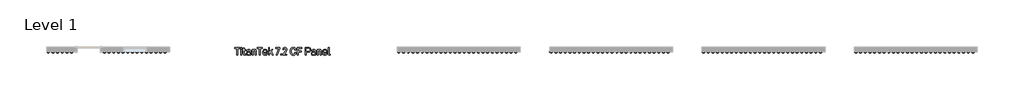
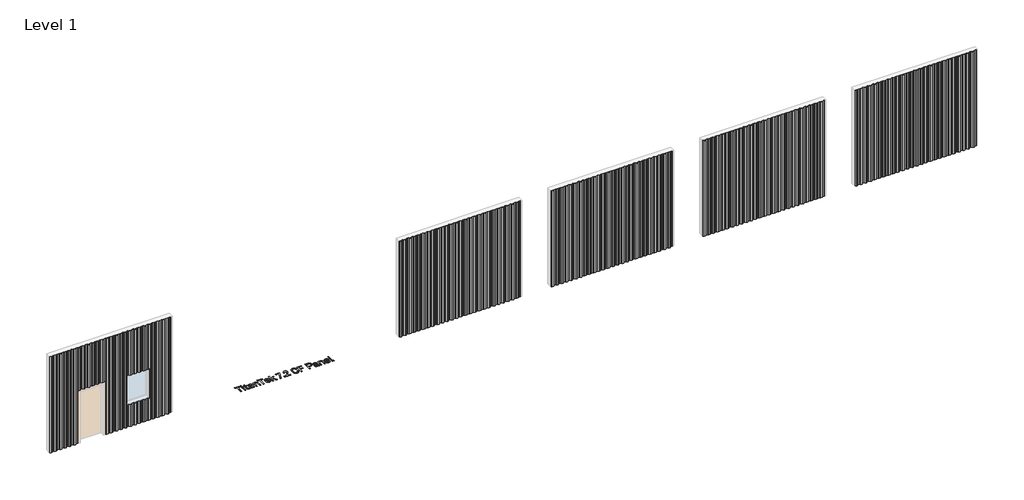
# One storey, part 9 of 9: 6 proxies.
"""IFC4 building model written with IfcOpenShell, lengths in millimetres."""

from ifc_helpers import new_model, si_unit, frame, origin, origin_with_axes, place, context, project, spatial, polyline, outline, extrude, faceted_brep, transform, mapped, element, save
from components import titantek_7_2_cf_panel_aluminum_slate_gray_eb07de06

model = new_model("IFC4")

# Units and contexts
model_context = context("Model", 3, world=origin())
ifc_project = project(units=[si_unit("LENGTHUNIT", "METRE", prefix="MILLI")], contexts=[model_context])

# Site, building, storey
site = spatial("IfcSite", under=ifc_project)
building = spatial("IfcBuilding", under=site)
storey = spatial("IfcBuildingStorey", under=building, Name="Level 1", Elevation=0.0)

# Proxies
placement = place(None, origin())
element("IfcBuildingElementProxy", 1, Name="600mm Arial 2", ObjectType="600mm Arial 2", at=placement, inside=storey, context=model_context, shape_type="SweptSolid", body=[
    extrude(outline(polyline([(-8638.9924556, 2220.4128343), (-8638.9924556, 1952.9873502), (-8678.4439015, 1952.9873502), (-8678.4439015, 2220.4128343), (-8762.8787304, 2220.4128343), (-8762.8787304, 2257.3166776), (-8554.5576267, 2257.3166776), (-8554.5576267, 2220.4128343), (-8638.9924556, 2220.4128343)])), origin_with_axes(), (0.0, 0.0, 1.0), 5.0),
    extrude(outline(polyline([(-8487.1553408, 2253.0221475), (-8487.1553408, 2205.8551051), (-8526.6067867, 2205.8551051), (-8526.6067867, 2253.0221475), (-8487.1553408, 2253.0221475)])), origin_with_axes(), (0.0, 0.0, 1.0), 5.0),
    extrude(outline(polyline([(-8488.0288046, 2178.8505176), (-8488.0288046, 1952.9873502), (-8525.733323, 1952.9873502), (-8525.733323, 2178.8505176), (-8488.0288046, 2178.8505176)])), origin_with_axes(), (0.0, 0.0, 1.0), 5.0),
    extrude(outline(polyline([(-8372.294858, 2012.601251), (-8370.8208879, 2001.5191797), (-8366.3989777, 1993.6034145), (-8359.0291273, 1988.8539554), (-8348.7113368, 1987.2708023), (-8327.2386864, 1987.2708023), (-8327.2386864, 1952.9873502), (-8353.3698101, 1952.9873502), (-8377.1535001, 1956.9543314), (-8395.3688587, 1968.855275), (-8406.6692959, 1987.3981825), (-8410.4361083, 2011.2910554), (-8410.4361083, 2147.1146681), (-8444.2828285, 2147.1146681), (-8444.2828285, 2178.8505176), (-8410.4361083, 2178.8505176), (-8410.4361083, 2226.8910237), (-8372.294858, 2244.8698192), (-8372.294858, 2178.8505176), (-8323.3808881, 2178.8505176), (-8323.3808881, 2147.1146681), (-8372.294858, 2147.1146681), (-8372.294858, 2012.601251)])), origin_with_axes(), (0.0, 0.0, 1.0), 5.0),
    extrude(outline(polyline([(-8146.8684225, 2162.1091291), (-8137.2830677, 2151.3409589), (-8130.4363858, 2138.2526505), (-8124.9590402, 2105.1156196), (-8124.9590402, 1952.9873502), (-8162.2996154, 1952.9873502), (-8162.2996154, 1969.2920069), (-8180.7151427, 1956.8451485), (-8197.7476858, 1952.0410978), (-8217.9829293, 1950.4397476), (-8250.0281305, 1954.7160806), (-8274.1029751, 1967.5450794), (-8289.2248162, 1989.3270816), (-8294.2654299, 2018.5699199), (-8289.1338304, 2046.2114081), (-8273.7390318, 2067.4111012), (-8249.063681, 2080.6222403), (-8217.1094655, 2085.0259534), (-8162.7363472, 2085.0259534), (-8162.7363472, 2105.5523515), (-8165.6296959, 2124.441005), (-8174.3097419, 2138.1616647), (-8188.2305704, 2146.1866129), (-8207.7197302, 2148.8615956), (-8226.2262434, 2146.6051476), (-8239.819523, 2139.8358036), (-8248.1720201, 2129.4816187), (-8250.9561857, 2115.4516073), (-8250.9561857, 2109.8468816), (-8287.8600291, 2109.8468816), (-8287.8600291, 2116.2522824), (-8282.4008807, 2143.2932642), (-8266.0234354, 2164.2927885), (-8240.8203668, 2177.4493362), (-8208.1564621, 2181.8348521), (-8172.6719974, 2176.9034213), (-8158.5600987, 2170.7391329), (-8146.8684225, 2162.1091291)]), holes=[polyline([(-8174.6736851, 1994.5496669), (-8165.7206817, 2009.4531421), (-8162.7363472, 2031.0167784), (-8162.7363472, 2054.9642428), (-8212.8149354, 2054.9642428), (-8231.9538, 2052.7168933), (-8245.6244175, 2045.974845), (-8253.826788, 2034.7380979), (-8256.5609115, 2019.0066518), (-8253.8540837, 2003.0522906), (-8245.7336004, 1991.6563182), (-8232.1994616, 1984.8187348), (-8213.2516673, 1982.5395404), (-8190.104878, 1985.542072), (-8174.6736851, 1994.5496669)])]), origin_with_axes(), (0.0, 0.0, 1.0), 5.0),
    extrude(outline(polyline([(-8030.6977441, 2178.8505176), (-8030.6977441, 2160.4349903), (-8012.2822167, 2173.6825238), (-7995.1222935, 2179.4692211), (-7976.2518372, 2181.3981202), (-7943.9154813, 2175.9389718), (-7930.7907787, 2169.1150363), (-7919.6950595, 2159.5615265), (-7911.0650557, 2147.9790333), (-7904.9007673, 2134.1946835), (-7899.9693365, 2100.0204144), (-7899.9693365, 1952.9873502), (-7937.673855, 1952.9873502), (-7937.673855, 2095.7258843), (-7940.6763866, 2118.1083928), (-7949.6839815, 2133.8671346), (-7964.3781893, 2143.4752358), (-7983.567096, 2146.6779363), (-8002.7378056, 2143.4752358), (-8017.3774219, 2133.8671346), (-8027.0401146, 2117.453295), (-8030.2610122, 2095.7258843), (-8030.2610122, 1952.9873502), (-8067.9655306, 1952.9873502), (-8067.9655306, 2178.8505176), (-8030.6977441, 2178.8505176)])), origin_with_axes(), (0.0, 0.0, 1.0), 5.0),
    extrude(outline(polyline([(-7749.2240514, 2220.4128343), (-7749.2240514, 1952.9873502), (-7788.6754974, 1952.9873502), (-7788.6754974, 2220.4128343), (-7873.1103263, 2220.4128343), (-7873.1103263, 2257.3166776), (-7664.7892225, 2257.3166776), (-7664.7892225, 2220.4128343), (-7749.2240514, 2220.4128343)])), origin_with_axes(), (0.0, 0.0, 1.0), 5.0),
    extrude(outline(polyline([(-7608.5235994, 2047.2486463), (-7605.1025331, 2017.8329349), (-7594.8393341, 1998.8805913), (-7578.3527058, 1988.5900965), (-7556.2613519, 1985.1599316), (-7536.990558, 1987.7257314), (-7522.8513635, 1995.4231306), (-7514.1713175, 2007.1966941), (-7511.2779689, 2022.86445), (-7511.2779689, 2028.3963871), (-7474.3741256, 2028.3963871), (-7474.3741256, 2021.9909863), (-7480.0516399, 1992.8391337), (-7487.1485329, 1980.528754), (-7497.084183, 1969.7287387), (-7523.7976159, 1955.2619954), (-7558.3722226, 1950.4397476), (-7577.3222916, 1951.9387388), (-7594.2843206, 1956.4357123), (-7609.2583098, 1963.9306682), (-7622.2442591, 1974.4236064), (-7632.7371973, 1988.0237099), (-7640.2321532, 2004.8401617), (-7644.7291267, 2024.8729617), (-7646.2281179, 2048.1221101), (-7646.2281179, 2085.8266285), (-7644.7314014, 2108.5321367), (-7640.2412518, 2128.1714231), (-7632.7576691, 2144.7444879), (-7622.2806535, 2158.2513309), (-7609.4971476, 2168.5691214), (-7594.7301511, 2175.9389718), (-7577.979664, 2180.360882), (-7559.2456864, 2181.8348521), (-7540.8438069, 2180.360882), (-7524.2161506, 2175.9389718), (-7509.3627176, 2168.5691214), (-7496.2835079, 2158.2513309), (-7485.9657174, 2144.9082623), (-7478.595867, 2128.389789), (-7474.1739568, 2108.6959111), (-7472.6999867, 2085.8266285), (-7472.6999867, 2055.8377065), (-7608.5235994, 2055.8377065), (-7608.5235994, 2047.2486463)]), holes=[polyline([(-7595.2760659, 2133.4304027), (-7605.2117161, 2115.30603), (-7608.5235994, 2086.7000923), (-7510.4045051, 2086.2633604), (-7510.4045051, 2089.6844267), (-7513.6254027, 2116.9255774), (-7523.2880954, 2134.3038665), (-7538.9012599, 2143.5844188), (-7559.2456864, 2146.6779363), (-7579.60831, 2143.3660529), (-7595.2760659, 2133.4304027)])]), origin_with_axes(), (0.0, 0.0, 1.0), 5.0),
    extrude(outline(polyline([(-7387.391694, 2020.3168474), (-7387.391694, 1952.9873502), (-7425.0962125, 1952.9873502), (-7425.0962125, 2257.3166776), (-7387.391694, 2257.3166776), (-7387.391694, 2070.8321675), (-7299.0990669, 2178.8505176), (-7252.3687564, 2178.8505176), (-7326.5403863, 2091.8680861), (-7241.6688255, 1952.9873502), (-7287.5256722, 1952.9873502), (-7351.7980463, 2062.6798392), (-7387.391694, 2020.3168474)])), origin_with_axes(), (0.0, 0.0, 1.0), 5.0),
    extrude(outline(polyline([(-6978.3195056, 2223.8339006), (-7076.001868, 1952.9873502), (-7116.3267777, 1952.9873502), (-7018.5716266, 2220.4128343), (-7137.2899076, 2220.4128343), (-7137.2899076, 2257.3166776), (-6978.3195056, 2257.3166776), (-6978.3195056, 2223.8339006)])), origin_with_axes(), (0.0, 0.0, 1.0), 5.0),
    extrude(outline(polyline([(-6899.1254592, 2001.0278564), (-6899.1254592, 1952.9873502), (-6945.4190378, 1952.9873502), (-6945.4190378, 2001.0278564), (-6899.1254592, 2001.0278564)])), origin_with_axes(), (0.0, 0.0, 1.0), 5.0),
    extrude(outline(polyline([(-6758.7161617, 2127.4617338), (-6745.1774737, 2153.2471115), (-6740.6645776, 2176.7396469), (-6740.6645776, 2183.1450477), (-6743.3577575, 2200.9418716), (-6751.4372972, 2214.0074335), (-6764.2844931, 2222.3599305), (-6780.5527554, 2225.1440962), (-6796.9302007, 2222.4691135), (-6809.2314818, 2214.4441653), (-6816.9834726, 2200.6143227), (-6819.5674695, 2181.3981202), (-6819.5674695, 2169.4607823), (-6858.9461268, 2169.4607823), (-6858.9461268, 2183.1450477), (-6853.5961613, 2214.7535171), (-6837.546265, 2240.1385572), (-6811.9428589, 2256.1884536), (-6779.6792917, 2261.5384191), (-6757.4969519, 2258.9726193), (-6738.116975, 2251.27522), (-6722.1580645, 2239.3924736), (-6710.2389238, 2223.3971687), (-6702.8690734, 2204.9998386), (-6700.4124566, 2184.0185115), (-6700.4124566, 2176.7396469), (-6702.1229898, 2158.0875565), (-6707.2545893, 2140.7092673), (-6726.9803122, 2105.9890833), (-6807.9940748, 1989.4544617), (-6700.4124566, 1989.4544617), (-6700.4124566, 1952.9873502), (-6858.9461268, 1952.9873502), (-6858.9461268, 1983.849736), (-6758.7161617, 2127.4617338)])), origin_with_axes(), (0.0, 0.0, 1.0), 5.0),
    extrude(outline(polyline([(-6532.925783, 1977.881067), (-6545.8548662, 1994.3676953), (-6555.0899256, 2014.7121217), (-6560.6309612, 2038.9143464), (-6562.4779731, 2066.9743693), (-6562.4779731, 2143.6936018), (-6560.6309612, 2171.9219484), (-6555.0899256, 2196.1924124), (-6545.8548662, 2216.5049939), (-6532.925783, 2232.8596927), (-6516.9168303, 2245.2474103), (-6498.4421621, 2254.09578), (-6477.5017786, 2259.4048019), (-6454.0956798, 2261.1744758), (-6424.7254613, 2258.2811272), (-6399.213041, 2249.6010812), (-6378.1043338, 2235.4436896), (-6361.9452544, 2216.1183042), (-6352.2825617, 2192.7713461), (-6349.0616641, 2166.4036592), (-6349.0616641, 2160.8717222), (-6388.949842, 2160.8717222), (-6388.949842, 2166.4036592), (-6393.2261749, 2190.2965321), (-6406.0551737, 2208.8394396), (-6426.8727263, 2220.4128343), (-6454.0956798, 2224.2706325), (-6483.5477855, 2219.5575677), (-6505.0841261, 2205.4183733), (-6512.7747014, 2194.4136399), (-6518.2679695, 2180.251699), (-6522.662584, 2142.4561948), (-6522.662584, 2065.3002304), (-6518.3498567, 2030.9712854), (-6505.411675, 2006.4506105), (-6495.7080386, 1997.8683742), (-6483.8480387, 1991.7382055), (-6453.6589479, 1986.8340705), (-6426.3268115, 1990.6918687), (-6406.0551737, 2002.2652633), (-6393.2261749, 2020.4806219), (-6388.949842, 2044.2643119), (-6388.949842, 2050.3057694), (-6349.9351279, 2050.3057694), (-6349.9351279, 2044.2643119), (-6351.7002526, 2023.4103649), (-6356.9956265, 2004.9584432), (-6365.8212498, 1988.9085469), (-6378.1771224, 1975.2606758), (-6393.5400759, 1964.0193793), (-6411.3141533, 1955.9898819), (-6431.4993546, 1951.1721834), (-6454.0956798, 1949.5662839), (-6477.5017786, 1951.3359578), (-6498.4421621, 1956.6449797), (-6516.9168303, 1965.4933494), (-6532.925783, 1977.881067)])), origin_with_axes(), (0.0, 0.0, 1.0), 5.0),
    extrude(outline(polyline([(-6255.7466205, 2125.2780744), (-6128.8760111, 2125.2780744), (-6128.8760111, 2088.4470198), (-6255.7466205, 2088.4470198), (-6255.7466205, 1952.9873502), (-6295.6347983, 1952.9873502), (-6295.6347983, 2257.3166776), (-6107.4761493, 2257.3166776), (-6107.4761493, 2220.4128343), (-6255.7466205, 2220.4128343), (-6255.7466205, 2125.2780744)])), origin_with_axes(), (0.0, 0.0, 1.0), 5.0),
    extrude(outline(polyline([(-5787.7884177, 2233.2964245), (-5776.3560511, 2219.8396237), (-5768.1900749, 2203.926206), (-5763.2904892, 2185.5561716), (-5761.6572939, 2164.7295204), (-5763.3177849, 2145.044741), (-5768.2992578, 2127.5527196), (-5776.6017127, 2112.2534562), (-5788.2251496, 2099.1469507), (-5802.2824568, 2088.6380899), (-5818.7599864, 2081.1317609), (-5837.6577386, 2076.6279634), (-5858.9757131, 2075.1266976), (-5929.653488, 2075.1266976), (-5929.653488, 1952.9873502), (-5969.5416658, 1952.9873502), (-5969.5416658, 2257.3166776), (-5858.9757131, 2257.3166776), (-5837.7942173, 2255.8154118), (-5818.8691694, 2251.3116143), (-5802.2005696, 2243.8052853), (-5787.7884177, 2233.2964245)]), holes=[polyline([(-5816.5399327, 2125.2780744), (-5805.294087, 2141.5827311), (-5801.5454717, 2164.7295204), (-5805.40327, 2189.3502798), (-5816.9766646, 2206.7285689), (-5836.0472898, 2216.9917679), (-5861.5233157, 2220.4128343), (-5929.653488, 2220.4128343), (-5929.653488, 2112.0305409), (-5861.5233157, 2112.0305409), (-5835.283009, 2115.3424243), (-5816.5399327, 2125.2780744)])]), origin_with_axes(), (0.0, 0.0, 1.0), 5.0),
    extrude(outline(polyline([(-5589.3665697, 2162.1091291), (-5579.781215, 2151.3409589), (-5572.934533, 2138.2526505), (-5567.4571874, 2105.1156196), (-5567.4571874, 1952.9873502), (-5604.7977626, 1952.9873502), (-5604.7977626, 1969.2920069), (-5623.21329, 1956.8451485), (-5640.245833, 1952.0410978), (-5660.4810765, 1950.4397476), (-5692.5262778, 1954.7160806), (-5716.6011223, 1967.5450794), (-5731.7229634, 1989.3270816), (-5736.7635771, 2018.5699199), (-5731.6319776, 2046.2114081), (-5716.2371791, 2067.4111012), (-5691.5618282, 2080.6222403), (-5659.6076128, 2085.0259534), (-5605.2344945, 2085.0259534), (-5605.2344945, 2105.5523515), (-5608.1278431, 2124.441005), (-5616.8078891, 2138.1616647), (-5630.7287176, 2146.1866129), (-5650.2178775, 2148.8615956), (-5668.7243906, 2146.6051476), (-5682.3176702, 2139.8358036), (-5690.6701673, 2129.4816187), (-5693.454333, 2115.4516073), (-5693.454333, 2109.8468816), (-5730.3581763, 2109.8468816), (-5730.3581763, 2116.2522824), (-5724.8990279, 2143.2932642), (-5708.5215826, 2164.2927885), (-5683.3185141, 2177.4493362), (-5650.6546094, 2181.8348521), (-5615.1701446, 2176.9034213), (-5601.0582459, 2170.7391329), (-5589.3665697, 2162.1091291)]), holes=[polyline([(-5617.1718324, 1994.5496669), (-5608.218829, 2009.4531421), (-5605.2344945, 2031.0167784), (-5605.2344945, 2054.9642428), (-5655.3130827, 2054.9642428), (-5674.4519472, 2052.7168933), (-5688.1225647, 2045.974845), (-5696.3249352, 2034.7380979), (-5699.0590587, 2019.0066518), (-5696.3522309, 2003.0522906), (-5688.2317477, 1991.6563182), (-5674.6976089, 1984.8187348), (-5655.7498145, 1982.5395404), (-5632.6030252, 1985.542072), (-5617.1718324, 1994.5496669)])]), origin_with_axes(), (0.0, 0.0, 1.0), 5.0),
    extrude(outline(polyline([(-5473.1958913, 2178.8505176), (-5473.1958913, 2160.4349903), (-5454.780364, 2173.6825238), (-5437.6204408, 2179.4692211), (-5418.7499844, 2181.3981202), (-5386.4136286, 2175.9389718), (-5373.2889259, 2169.1150363), (-5362.1932067, 2159.5615265), (-5353.5632029, 2147.9790333), (-5347.3989145, 2134.1946835), (-5342.4674838, 2100.0204144), (-5342.4674838, 1952.9873502), (-5380.1720022, 1952.9873502), (-5380.1720022, 2095.7258843), (-5383.1745338, 2118.1083928), (-5392.1821287, 2133.8671346), (-5406.8763366, 2143.4752358), (-5426.0652433, 2146.6779363), (-5445.2359528, 2143.4752358), (-5459.8755692, 2133.8671346), (-5469.5382619, 2117.453295), (-5472.7591594, 2095.7258843), (-5472.7591594, 1952.9873502), (-5510.4636779, 1952.9873502), (-5510.4636779, 2178.8505176), (-5473.1958913, 2178.8505176)])), origin_with_axes(), (0.0, 0.0, 1.0), 5.0),
    extrude(outline(polyline([(-5255.9945728, 2047.2486463), (-5252.5735064, 2017.8329349), (-5242.3103074, 1998.8805913), (-5225.8236791, 1988.5900965), (-5203.7323252, 1985.1599316), (-5184.4615313, 1987.7257314), (-5170.3223369, 1995.4231306), (-5161.6422909, 2007.1966941), (-5158.7489422, 2022.86445), (-5158.7489422, 2028.3963871), (-5121.8450989, 2028.3963871), (-5121.8450989, 2021.9909863), (-5127.5226132, 1992.8391337), (-5134.6195062, 1980.528754), (-5144.5551563, 1969.7287387), (-5171.2685893, 1955.2619954), (-5205.8431959, 1950.4397476), (-5224.7932649, 1951.9387388), (-5241.755294, 1956.4357123), (-5256.7292832, 1963.9306682), (-5269.7152325, 1974.4236064), (-5280.2081707, 1988.0237099), (-5287.7031265, 2004.8401617), (-5292.2001, 2024.8729617), (-5293.6990912, 2048.1221101), (-5293.6990912, 2085.8266285), (-5292.2023747, 2108.5321367), (-5287.7122251, 2128.1714231), (-5280.2286425, 2144.7444879), (-5269.7516268, 2158.2513309), (-5256.9681209, 2168.5691214), (-5242.2011244, 2175.9389718), (-5225.4506373, 2180.360882), (-5206.7166597, 2181.8348521), (-5188.3147802, 2180.360882), (-5171.687124, 2175.9389718), (-5156.833691, 2168.5691214), (-5143.7544812, 2158.2513309), (-5133.4366907, 2144.9082623), (-5126.0668403, 2128.389789), (-5121.6449301, 2108.6959111), (-5120.17096, 2085.8266285), (-5120.17096, 2055.8377065), (-5255.9945728, 2055.8377065), (-5255.9945728, 2047.2486463)]), holes=[polyline([(-5242.7470393, 2133.4304027), (-5252.6826894, 2115.30603), (-5255.9945728, 2086.7000923), (-5157.8754785, 2086.2633604), (-5157.8754785, 2089.6844267), (-5161.096376, 2116.9255774), (-5170.7590687, 2134.3038665), (-5186.3722332, 2143.5844188), (-5206.7166597, 2146.6779363), (-5227.0792833, 2143.3660529), (-5242.7470393, 2133.4304027)])]), origin_with_axes(), (0.0, 0.0, 1.0), 5.0),
    extrude(outline(polyline([(-5057.5727248, 1968.855275), (-5068.8185705, 1988.362632), (-5072.5671858, 2014.2753899), (-5072.5671858, 2257.3166776), (-5034.8626673, 2257.3166776), (-5034.8626673, 2016.0223174), (-5033.4796831, 2002.6110094), (-5029.3307303, 1994.112935), (-5022.3430203, 1989.6364333), (-5011.715878, 1988.1442661), (-4989.8792843, 1988.1442661), (-4989.8792843, 1952.9873502), (-5014.7002125, 1952.9873502), (-5039.5757322, 1956.9543314), (-5057.5727248, 1968.855275)])), origin_with_axes(), (0.0, 0.0, 1.0), 5.0),
])
titantek_7_2_cf_panel_aluminum_slate_gray_shape = titantek_7_2_cf_panel_aluminum_slate_gray_eb07de06(model_context)
element("IfcBuildingElementProxy", 2, Name="TitanTek 7.2 CF Panel : Aluminum Slate Gray", ObjectType="TitanTek 7.2 CF Panel : Aluminum Slate Gray", at=placement, inside=storey, context=model_context, shape_type="MappedRepresentation", body=[
    mapped(titantek_7_2_cf_panel_aluminum_slate_gray_shape, transform((-2360.5897817, 2078.6095025, 0.0), x_axis=(1.0, 0.0, 0.0), y_axis=(0.0, 1.0, 0.0), z_axis=(0.0, 0.0, 1.0))),
])
element("IfcBuildingElementProxy", 3, Name="TitanTek 7.2 CF Panel : Steel Bone White", ObjectType="TitanTek 7.2 CF Panel : Steel Bone White", at=placement, inside=storey, context=model_context, shape_type="MappedRepresentation", body=[
    mapped(titantek_7_2_cf_panel_aluminum_slate_gray_shape, transform((15639.4102183, 2078.6095025, 0.0), x_axis=(1.0, 0.0, 0.0), y_axis=(0.0, 1.0, 0.0), z_axis=(0.0, 0.0, 1.0))),
])
element("IfcBuildingElementProxy", 4, Name="TitanTek 7.2 CF Panel : Steel Hemlock Green", ObjectType="TitanTek 7.2 CF Panel : Steel Hemlock Green", at=placement, inside=storey, context=model_context, shape_type="MappedRepresentation", body=[
    mapped(titantek_7_2_cf_panel_aluminum_slate_gray_shape, transform((9639.4102183, 2078.6095025, 0.0), x_axis=(1.0, 0.0, 0.0), y_axis=(0.0, 1.0, 0.0), z_axis=(0.0, 0.0, 1.0))),
])
element("IfcBuildingElementProxy", 5, Name="TitanTek 7.2 CF Panel : Steel Regal Red", ObjectType="TitanTek 7.2 CF Panel : Steel Regal Red", at=placement, inside=storey, context=model_context, shape_type="SolidModel", body=[
    extrude(outline(polyline([(-15795.0564045, 2078.6095025), (-15787.5857463, 2072.340876), (-15789.129316, 2072.340876), (-15795.4175312, 2077.617315), (-15846.6895339, 2077.617315), (-15886.7638066, 2043.708315), (-15940.7011195, 2043.708315), (-15980.938795, 2077.617315), (-16031.013031, 2077.617315), (-16072.259889, 2042.7161275), (-16123.6674853, 2042.7161275), (-16165.2611009, 2077.617315), (-16163.7175312, 2077.617315), (-16123.3063586, 2043.708315), (-16072.623335, 2043.708315), (-16031.3764771, 2078.6095025), (-15980.5764771, 2078.6095025), (-15940.3388016, 2044.7005025), (-15887.1272527, 2044.7005025), (-15847.05298, 2078.6095025), (-15795.0564045, 2078.6095025)])), origin_with_axes(), (0.0, 0.0, 1.0), 4000.0),
    extrude(outline(polyline([(-15426.7564045, 2078.6095025), (-15419.2857463, 2072.340876), (-15420.829316, 2072.340876), (-15427.1175312, 2077.617315), (-15478.3895339, 2077.617315), (-15518.4638066, 2043.708315), (-15572.4011195, 2043.708315), (-15612.638795, 2077.617315), (-15662.713031, 2077.617315), (-15703.959889, 2042.7161275), (-15755.3674853, 2042.7161275), (-15796.9611009, 2077.617315), (-15795.4175312, 2077.617315), (-15755.0063586, 2043.708315), (-15704.323335, 2043.708315), (-15663.0764771, 2078.6095025), (-15612.2764771, 2078.6095025), (-15572.0388016, 2044.7005025), (-15518.8272527, 2044.7005025), (-15478.75298, 2078.6095025), (-15426.7564045, 2078.6095025)])), origin_with_axes(), (0.0, 0.0, 1.0), 4000.0),
    extrude(outline(polyline([(-15058.4564045, 2078.6095025), (-15050.9857463, 2072.340876), (-15052.529316, 2072.340876), (-15058.8175312, 2077.617315), (-15110.0895339, 2077.617315), (-15150.1638066, 2043.708315), (-15204.1011195, 2043.708315), (-15244.338795, 2077.617315), (-15294.413031, 2077.617315), (-15335.659889, 2042.7161275), (-15387.0674853, 2042.7161275), (-15428.6611009, 2077.617315), (-15427.1175312, 2077.617315), (-15386.7063586, 2043.708315), (-15336.023335, 2043.708315), (-15294.7764771, 2078.6095025), (-15243.9764771, 2078.6095025), (-15203.7388016, 2044.7005025), (-15150.5272527, 2044.7005025), (-15110.45298, 2078.6095025), (-15058.4564045, 2078.6095025)])), origin_with_axes(), (0.0, 0.0, 1.0), 4000.0),
    faceted_brep([(-15018.7674853, 2042.7161275, 4000.0), (-15060.3611009, 2077.617315, 4000.0), (-15060.3611009, 2077.617315, 0.0), (-15039.5272757, 2060.1356599, 0.0), (-15039.5272757, 2060.1356599, 2210.0), (-15018.7674853, 2042.7161275, 2210.0), (-14967.359889, 2042.7161275, 4000.0), (-14967.359889, 2042.7161275, 2210.0), (-14926.113031, 2077.617315, 4000.0), (-14926.113031, 2077.617315, 2210.0), (-14876.038795, 2077.617315, 4000.0), (-14876.038795, 2077.617315, 2210.0), (-14835.8011195, 2043.708315, 4000.0), (-14835.8011195, 2043.708315, 2210.0), (-14781.8638066, 2043.708315, 4000.0), (-14781.8638066, 2043.708315, 2210.0), (-14741.7895339, 2077.617315, 4000.0), (-14741.7895339, 2077.617315, 2210.0), (-14690.5175312, 2077.617315, 4000.0), (-14690.5175312, 2077.617315, 2210.0), (-14682.6857463, 2072.340876, 4000.0), (-14684.229316, 2072.340876, 4000.0), (-14684.229316, 2072.340876, 2210.0), (-14682.6857463, 2072.340876, 2210.0), (-14742.15298, 2078.6095025, 4000.0), (-14690.1564045, 2078.6095025, 4000.0), (-14690.1564045, 2078.6095025, 2210.0), (-14742.15298, 2078.6095025, 2210.0), (-14782.2272527, 2044.7005025, 4000.0), (-14782.2272527, 2044.7005025, 2210.0), (-14835.4388016, 2044.7005025, 4000.0), (-14835.4388016, 2044.7005025, 2210.0), (-14875.6764771, 2078.6095025, 4000.0), (-14926.4764771, 2078.6095025, 4000.0), (-14967.723335, 2043.708315, 4000.0), (-15018.4063586, 2043.708315, 4000.0), (-15058.8175312, 2077.617315, 4000.0), (-15058.8175312, 2077.617315, 0.0), (-15039.5272757, 2061.4308687, 0.0), (-14875.6764771, 2078.6095025, 2210.0), (-14926.4764771, 2078.6095025, 2210.0), (-14967.723335, 2043.708315, 2210.0), (-15018.4063586, 2043.708315, 2210.0), (-15039.5272757, 2061.4308687, 2210.0)], [[[0, 1, 2, 3, 4, 5]], [[6, 0, 5, 7]], [[8, 6, 7, 9]], [[10, 8, 9, 11]], [[12, 10, 11, 13]], [[14, 12, 13, 15]], [[16, 14, 15, 17]], [[18, 16, 17, 19]], [[20, 21, 22, 23]], [[24, 25, 26, 27]], [[28, 24, 27, 29]], [[30, 28, 29, 31]], [[25, 24, 28, 30, 32, 33, 34, 35, 36, 1, 0, 6, 8, 10, 12, 14, 16, 18, 21, 20]], [[2, 37, 38, 3]], [[32, 30, 31, 39]], [[33, 32, 39, 40]], [[34, 33, 40, 41]], [[35, 34, 41, 42]], [[36, 35, 42, 43, 38, 37]], [[21, 18, 19, 22]], [[25, 20, 23, 26]], [[1, 36, 37, 2]], [[4, 43, 42, 41, 40, 39, 31, 29, 27, 26, 23, 22, 19, 17, 15, 13, 11, 9, 7, 5]], [[43, 4, 3, 38]]]),
    extrude(outline(polyline([(-14650.4674853, 2042.7161275), (-14692.0611009, 2077.617315), (-14690.5175312, 2077.617315), (-14650.1063586, 2043.708315), (-14599.423335, 2043.708315), (-14558.1764771, 2078.6095025), (-14507.3764771, 2078.6095025), (-14467.1388016, 2044.7005025), (-14413.9272527, 2044.7005025), (-14373.85298, 2078.6095025), (-14321.8564045, 2078.6095025), (-14314.3857463, 2072.340876), (-14315.929316, 2072.340876), (-14322.2175312, 2077.617315), (-14373.4895339, 2077.617315), (-14413.5638066, 2043.708315), (-14467.5011195, 2043.708315), (-14507.738795, 2077.617315), (-14557.813031, 2077.617315), (-14599.059889, 2042.7161275), (-14650.4674853, 2042.7161275)])), frame((0.0, 0.0, 2210.0), z_axis=(0.0, 0.0, 1.0), x_axis=(1.0, 0.0, 0.0)), (0.0, 0.0, 1.0), 1790.0),
    faceted_brep([(-14282.1674853, 2042.7161275, 4000.0), (-14323.7611009, 2077.617315, 4000.0), (-14323.7611009, 2077.617315, 2210.0), (-14282.1674853, 2042.7161275, 2210.0), (-14230.759889, 2042.7161275, 4000.0), (-14230.759889, 2042.7161275, 2210.0), (-14189.513031, 2077.617315, 4000.0), (-14189.513031, 2077.617315, 2210.0), (-14139.438795, 2077.617315, 4000.0), (-14139.438795, 2077.617315, 2210.0), (-14099.2011195, 2043.708315, 4000.0), (-14099.2011195, 2043.708315, 2210.0), (-14045.2638066, 2043.708315, 4000.0), (-14045.2638066, 2043.708315, 2210.0), (-14005.1895339, 2077.617315, 4000.0), (-14005.1895339, 2077.617315, 2210.0), (-13953.9175312, 2077.617315, 4000.0), (-13972.5272757, 2077.617315, 2210.0), (-13972.5272757, 2077.617315, 0.0), (-13953.9175312, 2077.617315, 0.0), (-13946.0857463, 2072.340876, 4000.0), (-13947.629316, 2072.340876, 4000.0), (-13947.629316, 2072.340876, 0.0), (-13946.0857463, 2072.340876, 0.0), (-14005.55298, 2078.6095025, 4000.0), (-13953.5564045, 2078.6095025, 4000.0), (-13953.5564045, 2078.6095025, 0.0), (-13972.5272757, 2078.6095025, 0.0), (-13972.5272757, 2078.6095025, 2210.0), (-14005.55298, 2078.6095025, 2210.0), (-14045.6272527, 2044.7005025, 4000.0), (-14045.6272527, 2044.7005025, 2210.0), (-14098.8388016, 2044.7005025, 4000.0), (-14098.8388016, 2044.7005025, 2210.0), (-14139.0764771, 2078.6095025, 4000.0), (-14189.8764771, 2078.6095025, 4000.0), (-14231.123335, 2043.708315, 4000.0), (-14281.8063586, 2043.708315, 4000.0), (-14322.2175312, 2077.617315, 4000.0), (-14139.0764771, 2078.6095025, 2210.0), (-14189.8764771, 2078.6095025, 2210.0), (-14231.123335, 2043.708315, 2210.0), (-14281.8063586, 2043.708315, 2210.0), (-14322.2175312, 2077.617315, 2210.0)], [[[0, 1, 2, 3]], [[4, 0, 3, 5]], [[6, 4, 5, 7]], [[8, 6, 7, 9]], [[10, 8, 9, 11]], [[12, 10, 11, 13]], [[14, 12, 13, 15]], [[16, 14, 15, 17, 18, 19]], [[20, 21, 22, 23]], [[24, 25, 26, 27, 28, 29]], [[30, 24, 29, 31]], [[32, 30, 31, 33]], [[25, 24, 30, 32, 34, 35, 36, 37, 38, 1, 0, 4, 6, 8, 10, 12, 14, 16, 21, 20]], [[26, 23, 22, 19, 18, 27]], [[34, 32, 33, 39]], [[35, 34, 39, 40]], [[36, 35, 40, 41]], [[37, 36, 41, 42]], [[38, 37, 42, 43]], [[21, 16, 19, 22]], [[25, 20, 23, 26]], [[1, 38, 43, 2]], [[17, 28, 27, 18]], [[28, 17, 15, 13, 11, 9, 7, 5, 3, 2, 43, 42, 41, 40, 39, 33, 31, 29]]]),
    extrude(outline(polyline([(-13585.2564045, 2078.6095025), (-13577.7857463, 2072.340876), (-13579.329316, 2072.340876), (-13585.6175312, 2077.617315), (-13636.8895339, 2077.617315), (-13676.9638066, 2043.708315), (-13730.9011195, 2043.708315), (-13771.138795, 2077.617315), (-13821.213031, 2077.617315), (-13862.459889, 2042.7161275), (-13913.8674853, 2042.7161275), (-13955.4611009, 2077.617315), (-13953.9175312, 2077.617315), (-13913.5063586, 2043.708315), (-13862.823335, 2043.708315), (-13821.5764771, 2078.6095025), (-13770.7764771, 2078.6095025), (-13730.5388016, 2044.7005025), (-13677.3272527, 2044.7005025), (-13637.25298, 2078.6095025), (-13585.2564045, 2078.6095025)])), origin_with_axes(), (0.0, 0.0, 1.0), 4000.0),
    extrude(outline(polyline([(-13216.9564045, 2078.6095025), (-13209.4857463, 2072.340876), (-13211.029316, 2072.340876), (-13217.3175312, 2077.617315), (-13268.5895339, 2077.617315), (-13308.6638066, 2043.708315), (-13362.6011195, 2043.708315), (-13402.838795, 2077.617315), (-13452.913031, 2077.617315), (-13494.159889, 2042.7161275), (-13545.5674853, 2042.7161275), (-13587.1611009, 2077.617315), (-13585.6175312, 2077.617315), (-13545.2063586, 2043.708315), (-13494.523335, 2043.708315), (-13453.2764771, 2078.6095025), (-13402.4764771, 2078.6095025), (-13362.2388016, 2044.7005025), (-13309.0272527, 2044.7005025), (-13268.95298, 2078.6095025), (-13216.9564045, 2078.6095025)])), origin_with_axes(), (0.0, 0.0, 1.0), 4000.0),
    faceted_brep([(-13177.2674853, 2042.7161275, 4000.0), (-13218.8611009, 2077.617315, 4000.0), (-13218.8611009, 2077.617315, 0.0), (-13177.2674853, 2042.7161275, 0.0), (-13125.859889, 2042.7161275, 4000.0), (-13125.859889, 2042.7161275, 0.0), (-13125.859889, 2042.7161275, 915.4292148), (-13138.5272757, 2042.7161275, 915.4292148), (-13138.5272757, 2042.7161275, 2135.0), (-13125.859889, 2042.7161275, 2135.0), (-13084.613031, 2077.617315, 4000.0), (-13084.613031, 2077.617315, 2135.0), (-13084.613031, 2077.617315, 0.0), (-13084.613031, 2077.617315, 915.4292148), (-13034.538795, 2077.617315, 4000.0), (-13034.538795, 2077.617315, 2135.0), (-13034.538795, 2077.617315, 0.0), (-13034.538795, 2077.617315, 915.4292148), (-12994.3011195, 2043.708315, 4000.0), (-12994.3011195, 2043.708315, 2135.0), (-12994.3011195, 2043.708315, 0.0), (-12994.3011195, 2043.708315, 915.4292148), (-12940.3638066, 2043.708315, 4000.0), (-12940.3638066, 2043.708315, 2135.0), (-12940.3638066, 2043.708315, 0.0), (-12940.3638066, 2043.708315, 915.4292148), (-12900.2895339, 2077.617315, 4000.0), (-12900.2895339, 2077.617315, 2135.0), (-12900.2895339, 2077.617315, 0.0), (-12900.2895339, 2077.617315, 915.4292148), (-12849.0175312, 2077.617315, 4000.0), (-12849.0175312, 2077.617315, 2135.0), (-12849.0175312, 2077.617315, 0.0), (-12849.0175312, 2077.617315, 915.4292148), (-12841.1857463, 2072.340876, 4000.0), (-12842.729316, 2072.340876, 4000.0), (-12842.729316, 2072.340876, 2135.0), (-12841.1857463, 2072.340876, 2135.0), (-12842.729316, 2072.340876, 0.0), (-12841.1857463, 2072.340876, 0.0), (-12841.1857463, 2072.340876, 915.4292148), (-12842.729316, 2072.340876, 915.4292148), (-12900.65298, 2078.6095025, 4000.0), (-12848.6564045, 2078.6095025, 4000.0), (-12848.6564045, 2078.6095025, 2135.0), (-12900.65298, 2078.6095025, 2135.0), (-12848.6564045, 2078.6095025, 0.0), (-12900.65298, 2078.6095025, 0.0), (-12900.65298, 2078.6095025, 915.4292148), (-12848.6564045, 2078.6095025, 915.4292148), (-12940.7272527, 2044.7005025, 4000.0), (-12940.7272527, 2044.7005025, 2135.0), (-12940.7272527, 2044.7005025, 0.0), (-12940.7272527, 2044.7005025, 915.4292148), (-12993.9388016, 2044.7005025, 4000.0), (-12993.9388016, 2044.7005025, 2135.0), (-12993.9388016, 2044.7005025, 0.0), (-12993.9388016, 2044.7005025, 915.4292148), (-13034.1764771, 2078.6095025, 4000.0), (-13084.9764771, 2078.6095025, 4000.0), (-13126.223335, 2043.708315, 4000.0), (-13176.9063586, 2043.708315, 4000.0), (-13217.3175312, 2077.617315, 4000.0), (-13217.3175312, 2077.617315, 0.0), (-13176.9063586, 2043.708315, 0.0), (-13126.223335, 2043.708315, 0.0), (-13084.9764771, 2078.6095025, 0.0), (-13034.1764771, 2078.6095025, 0.0), (-13034.1764771, 2078.6095025, 2135.0), (-13034.1764771, 2078.6095025, 915.4292148), (-13084.9764771, 2078.6095025, 915.4292148), (-13084.9764771, 2078.6095025, 2135.0), (-13126.223335, 2043.708315, 2135.0), (-13126.223335, 2043.708315, 915.4292148), (-13138.5272757, 2043.708315, 2135.0), (-13138.5272757, 2043.708315, 915.4292148)], [[[0, 1, 2, 3]], [[4, 0, 3, 5, 6, 7, 8, 9]], [[10, 4, 9, 11]], [[5, 12, 13, 6]], [[14, 10, 11, 15]], [[12, 16, 17, 13]], [[18, 14, 15, 19]], [[16, 20, 21, 17]], [[22, 18, 19, 23]], [[20, 24, 25, 21]], [[26, 22, 23, 27]], [[24, 28, 29, 25]], [[30, 26, 27, 31]], [[28, 32, 33, 29]], [[34, 35, 36, 37]], [[38, 39, 40, 41]], [[42, 43, 44, 45]], [[46, 47, 48, 49]], [[50, 42, 45, 51]], [[47, 52, 53, 48]], [[54, 50, 51, 55]], [[52, 56, 57, 53]], [[43, 42, 50, 54, 58, 59, 60, 61, 62, 1, 0, 4, 10, 14, 18, 22, 26, 30, 35, 34]], [[46, 39, 38, 32, 28, 24, 20, 16, 12, 5, 3, 2, 63, 64, 65, 66, 67, 56, 52, 47]], [[58, 54, 55, 68]], [[56, 67, 69, 57]], [[67, 66, 70, 69]], [[59, 58, 68, 71]], [[60, 59, 71, 72]], [[66, 65, 73, 70]], [[61, 60, 72, 74, 75, 73, 65, 64]], [[62, 61, 64, 63]], [[35, 30, 31, 36]], [[32, 38, 41, 33]], [[43, 34, 37, 44]], [[39, 46, 49, 40]], [[1, 62, 63, 2]], [[8, 74, 72, 71, 68, 55, 51, 45, 44, 37, 36, 31, 27, 23, 19, 15, 11, 9]], [[74, 8, 7, 75]], [[75, 7, 6, 13, 17, 21, 25, 29, 33, 41, 40, 49, 48, 53, 57, 69, 70, 73]]]),
    extrude(outline(polyline([(-12808.9674853, 2042.7161275), (-12850.5611009, 2077.617315), (-12849.0175312, 2077.617315), (-12808.6063586, 2043.708315), (-12757.923335, 2043.708315), (-12716.6764771, 2078.6095025), (-12665.8764771, 2078.6095025), (-12625.6388016, 2044.7005025), (-12572.4272527, 2044.7005025), (-12532.35298, 2078.6095025), (-12480.3564045, 2078.6095025), (-12472.8857463, 2072.340876), (-12474.429316, 2072.340876), (-12480.7175312, 2077.617315), (-12531.9895339, 2077.617315), (-12572.0638066, 2043.708315), (-12626.0011195, 2043.708315), (-12666.238795, 2077.617315), (-12716.313031, 2077.617315), (-12757.559889, 2042.7161275), (-12808.9674853, 2042.7161275)])), frame((0.0, 0.0, 2135.0), z_axis=(0.0, 0.0, 1.0), x_axis=(1.0, 0.0, 0.0)), (0.0, 0.0, 1.0), 1865.0),
    extrude(outline(polyline([(-12480.3564045, 2078.6095025), (-12472.8857463, 2072.340876), (-12474.429316, 2072.340876), (-12480.7175312, 2077.617315), (-12531.9895339, 2077.617315), (-12572.0638066, 2043.708315), (-12626.0011195, 2043.708315), (-12666.238795, 2077.617315), (-12716.313031, 2077.617315), (-12757.559889, 2042.7161275), (-12808.9674853, 2042.7161275), (-12850.5611009, 2077.617315), (-12849.0175312, 2077.617315), (-12808.6063586, 2043.708315), (-12757.923335, 2043.708315), (-12716.6764771, 2078.6095025), (-12665.8764771, 2078.6095025), (-12625.6388016, 2044.7005025), (-12572.4272527, 2044.7005025), (-12532.35298, 2078.6095025), (-12480.3564045, 2078.6095025)])), origin_with_axes(), (0.0, 0.0, 1.0), 915.4292148),
    faceted_brep([(-12440.6674853, 2042.7161275, 4000.0), (-12482.2611009, 2077.617315, 4000.0), (-12482.2611009, 2077.617315, 2135.0), (-12440.6674853, 2042.7161275, 2135.0), (-12482.2611009, 2077.617315, 0.0), (-12440.6674853, 2042.7161275, 0.0), (-12440.6674853, 2042.7161275, 915.4292148), (-12482.2611009, 2077.617315, 915.4292148), (-12389.259889, 2042.7161275, 4000.0), (-12389.259889, 2042.7161275, 2135.0), (-12389.259889, 2042.7161275, 0.0), (-12389.259889, 2042.7161275, 915.4292148), (-12348.013031, 2077.617315, 4000.0), (-12348.013031, 2077.617315, 2135.0), (-12348.013031, 2077.617315, 0.0), (-12348.013031, 2077.617315, 915.4292148), (-12297.938795, 2077.617315, 4000.0), (-12297.938795, 2077.617315, 2135.0), (-12297.938795, 2077.617315, 0.0), (-12297.938795, 2077.617315, 915.4292148), (-12257.7011195, 2043.708315, 4000.0), (-12257.7011195, 2043.708315, 2135.0), (-12257.7011195, 2043.708315, 0.0), (-12257.7011195, 2043.708315, 915.4292148), (-12203.7638066, 2043.708315, 4000.0), (-12223.5272757, 2043.708315, 2135.0), (-12223.5272757, 2043.708315, 915.4292148), (-12203.7638066, 2043.708315, 0.0), (-12163.6895339, 2077.617315, 4000.0), (-12163.6895339, 2077.617315, 0.0), (-12112.4175312, 2077.617315, 4000.0), (-12112.4175312, 2077.617315, 0.0), (-12104.5857463, 2072.340876, 4000.0), (-12106.129316, 2072.340876, 4000.0), (-12106.129316, 2072.340876, 0.0), (-12104.5857463, 2072.340876, 0.0), (-12164.05298, 2078.6095025, 4000.0), (-12112.0564045, 2078.6095025, 4000.0), (-12112.0564045, 2078.6095025, 0.0), (-12164.05298, 2078.6095025, 0.0), (-12204.1272527, 2044.7005025, 4000.0), (-12204.1272527, 2044.7005025, 0.0), (-12257.3388016, 2044.7005025, 4000.0), (-12257.3388016, 2044.7005025, 0.0), (-12257.3388016, 2044.7005025, 915.4292148), (-12223.5272757, 2044.7005025, 915.4292148), (-12223.5272757, 2044.7005025, 2135.0), (-12257.3388016, 2044.7005025, 2135.0), (-12297.5764771, 2078.6095025, 4000.0), (-12348.3764771, 2078.6095025, 4000.0), (-12389.623335, 2043.708315, 4000.0), (-12440.3063586, 2043.708315, 4000.0), (-12480.7175312, 2077.617315, 4000.0), (-12480.7175312, 2077.617315, 0.0), (-12440.3063586, 2043.708315, 0.0), (-12389.623335, 2043.708315, 0.0), (-12348.3764771, 2078.6095025, 0.0), (-12297.5764771, 2078.6095025, 0.0), (-12297.5764771, 2078.6095025, 2135.0), (-12297.5764771, 2078.6095025, 915.4292148), (-12348.3764771, 2078.6095025, 915.4292148), (-12348.3764771, 2078.6095025, 2135.0), (-12389.623335, 2043.708315, 2135.0), (-12389.623335, 2043.708315, 915.4292148), (-12440.3063586, 2043.708315, 2135.0), (-12440.3063586, 2043.708315, 915.4292148), (-12480.7175312, 2077.617315, 2135.0), (-12480.7175312, 2077.617315, 915.4292148)], [[[0, 1, 2, 3]], [[4, 5, 6, 7]], [[8, 0, 3, 9]], [[5, 10, 11, 6]], [[12, 8, 9, 13]], [[10, 14, 15, 11]], [[16, 12, 13, 17]], [[14, 18, 19, 15]], [[20, 16, 17, 21]], [[18, 22, 23, 19]], [[24, 20, 21, 25, 26, 23, 22, 27]], [[28, 24, 27, 29]], [[30, 28, 29, 31]], [[32, 33, 34, 35]], [[36, 37, 38, 39]], [[40, 36, 39, 41]], [[42, 40, 41, 43, 44, 45, 46, 47]], [[37, 36, 40, 42, 48, 49, 50, 51, 52, 1, 0, 8, 12, 16, 20, 24, 28, 30, 33, 32]], [[38, 35, 34, 31, 29, 27, 22, 18, 14, 10, 5, 4, 53, 54, 55, 56, 57, 43, 41, 39]], [[48, 42, 47, 58]], [[43, 57, 59, 44]], [[57, 56, 60, 59]], [[49, 48, 58, 61]], [[50, 49, 61, 62]], [[56, 55, 63, 60]], [[51, 50, 62, 64]], [[55, 54, 65, 63]], [[52, 51, 64, 66]], [[54, 53, 67, 65]], [[33, 30, 31, 34]], [[37, 32, 35, 38]], [[1, 52, 66, 2]], [[53, 4, 7, 67]], [[45, 26, 25, 46]], [[46, 25, 21, 17, 13, 9, 3, 2, 66, 64, 62, 61, 58, 47]], [[26, 45, 44, 59, 60, 63, 65, 67, 7, 6, 11, 15, 19, 23]]]),
    extrude(outline(polyline([(-11743.7564045, 2078.6095025), (-11736.2857463, 2072.340876), (-11737.829316, 2072.340876), (-11744.1175312, 2077.617315), (-11795.3895339, 2077.617315), (-11835.4638066, 2043.708315), (-11889.4011195, 2043.708315), (-11929.638795, 2077.617315), (-11979.713031, 2077.617315), (-12020.959889, 2042.7161275), (-12072.3674853, 2042.7161275), (-12113.9611009, 2077.617315), (-12112.4175312, 2077.617315), (-12072.0063586, 2043.708315), (-12021.323335, 2043.708315), (-11980.0764771, 2078.6095025), (-11929.2764771, 2078.6095025), (-11889.0388016, 2044.7005025), (-11835.8272527, 2044.7005025), (-11795.75298, 2078.6095025), (-11743.7564045, 2078.6095025)])), origin_with_axes(), (0.0, 0.0, 1.0), 4000.0),
    extrude(outline(polyline([(-11375.4564045, 2078.6095025), (-11367.9857463, 2072.340876), (-11369.529316, 2072.340876), (-11375.8175312, 2077.617315), (-11427.0895339, 2077.617315), (-11467.1638066, 2043.708315), (-11521.1011195, 2043.708315), (-11561.338795, 2077.617315), (-11611.413031, 2077.617315), (-11652.659889, 2042.7161275), (-11704.0674853, 2042.7161275), (-11745.6611009, 2077.617315), (-11744.1175312, 2077.617315), (-11703.7063586, 2043.708315), (-11653.023335, 2043.708315), (-11611.7764771, 2078.6095025), (-11560.9764771, 2078.6095025), (-11520.7388016, 2044.7005025), (-11467.5272527, 2044.7005025), (-11427.45298, 2078.6095025), (-11375.4564045, 2078.6095025)])), origin_with_axes(), (0.0, 0.0, 1.0), 4000.0),
])
element("IfcBuildingElementProxy", 6, Name="TitanTek 7.2 CF Panel : Steel Regal Red", ObjectType="TitanTek 7.2 CF Panel : Steel Regal Red", at=placement, inside=storey, context=model_context, shape_type="MappedRepresentation", body=[
    mapped(titantek_7_2_cf_panel_aluminum_slate_gray_shape, transform((3639.4102183, 2078.6095025, 0.0), x_axis=(1.0, 0.0, 0.0), y_axis=(0.0, 1.0, 0.0), z_axis=(0.0, 0.0, 1.0))),
])

save(model, "model.ifc")
